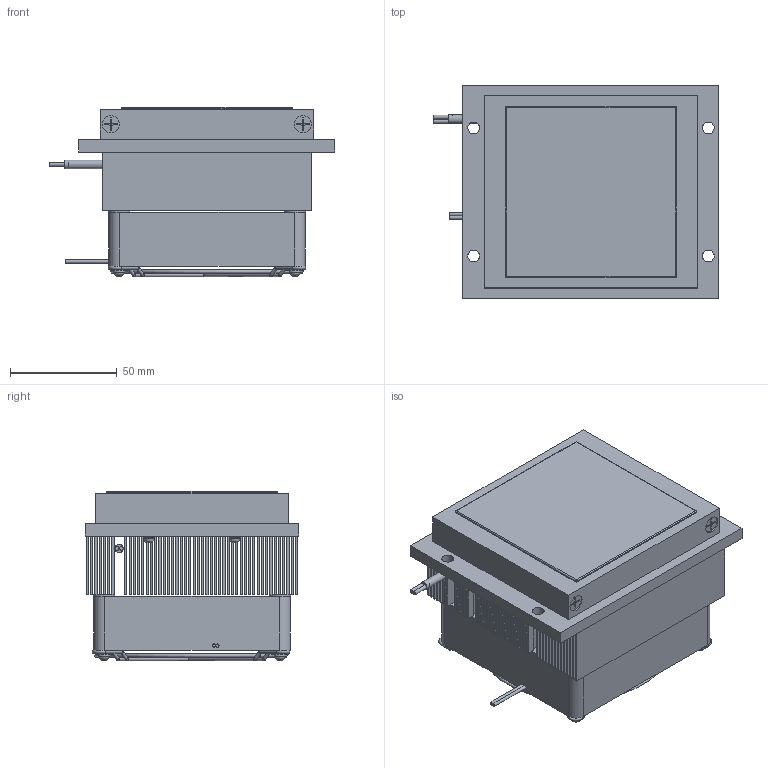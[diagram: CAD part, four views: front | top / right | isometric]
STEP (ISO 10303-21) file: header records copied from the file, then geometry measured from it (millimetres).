
FILE_DESCRIPTION(('STEP AP214'),'1');
FILE_NAME('HMC-21F-0500.stp','2026-03-16T05:56:42',(' '),(' '),'Spatial InterOp 3D',' ',' ');
FILE_SCHEMA(('AUTOMOTIVE_DESIGN { 1 0 10303 214 1 1 1 1 }'));
Length unit declared in the file: metre
Products named in the file (13): HMC-21F-0500; ﾋｰﾄｼﾝｸ; 樹脂枠; 冷却板; 皿ネジ; M3ネジ; 平ワッシャー; フィンガーガード; ネジ(ファンモーター用); ファンリード線; ペルチェリード線; 製造番号シール; ＤＣファンモーター
Assembly tree (12 placements, depth 2):
  HMC-21F-0500
    ﾋｰﾄｼﾝｸ
    樹脂枠
    冷却板
    皿ネジ
    M3ネジ
    平ワッシャー
    フィンガーガード
    ネジ(ファンモーター用)
    ファンリード線
    ペルチェリード線
    製造番号シール
    ＤＣファンモーター
Bounding box: 134 x 100 x 79.4 mm (x, y, z)
Volume: 547629.9 mm3; surface area: 358754.8 mm2
Topology: 38 solids, 43 shells, 735 faces, 1868 edges, 1159 vertices
Faces by surface type: plane 578, cylinder 122, torus 27, bspline 8
Full cylindrical faces by diameter (mm): 1.5 x4, 1.6 x24, 1.8 x2, 1.85 x2, 3 x4, 3.4 x4, 3.5 x4, 4 x5, 5.5 x12, 6 x4, 8 x12, 10 x4
Entity records: 27370 total; most frequent: CARTESIAN_POINT 4606, DIRECTION 3238, ORIENTED_EDGE 3134, EDGE_CURVE 1581, LINE 1178, VECTOR 1178, VERTEX_POINT 1120, AXIS2_PLACEMENT_3D 1030
